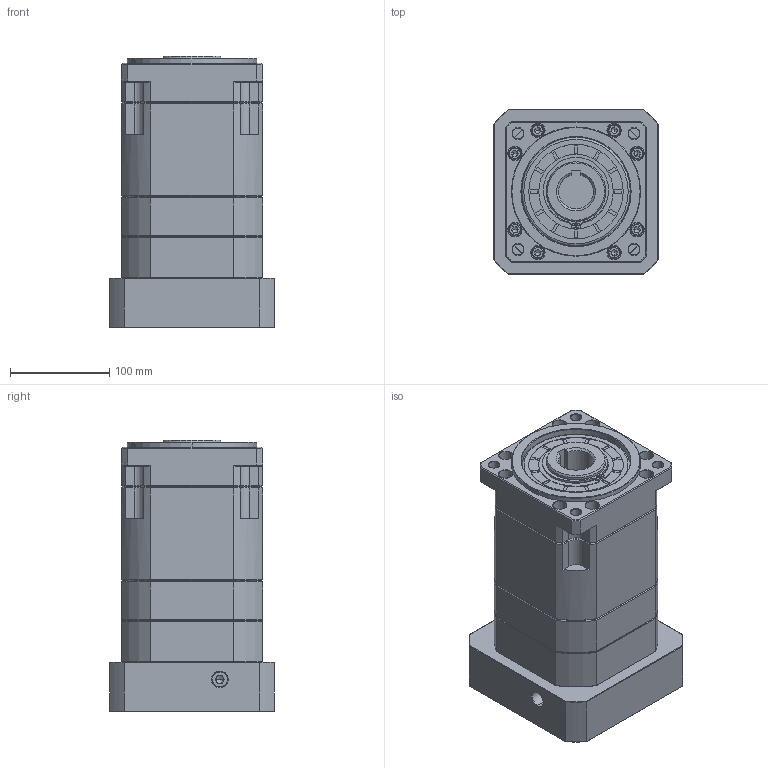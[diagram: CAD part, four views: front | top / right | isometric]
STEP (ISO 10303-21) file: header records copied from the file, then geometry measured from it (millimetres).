
FILE_DESCRIPTION (( 'STEP AP214' ), '1' );
FILE_NAME ('ZB142A-K35-L3-32-130-165-M10.step', '2023-03-17T10:50:27', ( '' ), ( '' ), 'SwSTEP 2.0', 'SolidWorks 2016', '' );
FILE_SCHEMA (( 'AUTOMOTIVE_DESIGN' ));
Length unit declared in the file: millimetre
Products named in the file (1): ZB142A-K35-L3-32-130-165-M10
Bounding box: 166 x 166 x 273.2 mm (x, y, z)
Volume: 4927305.9 mm3; surface area: 339312.1 mm2
Topology: 6 solids, 6 shells, 2007 faces, 5295 edges, 3386 vertices
Faces by surface type: plane 928, cylinder 399, cone 354, bspline 306, torus 20
Entity records: 107808 total; most frequent: CARTESIAN_POINT 38508, ORIENTED_EDGE 10534, DIRECTION 8710, EDGE_CURVE 5267, VERTEX_POINT 3386, VECTOR 3244, LINE 3244, AXIS2_PLACEMENT_3D 2733
